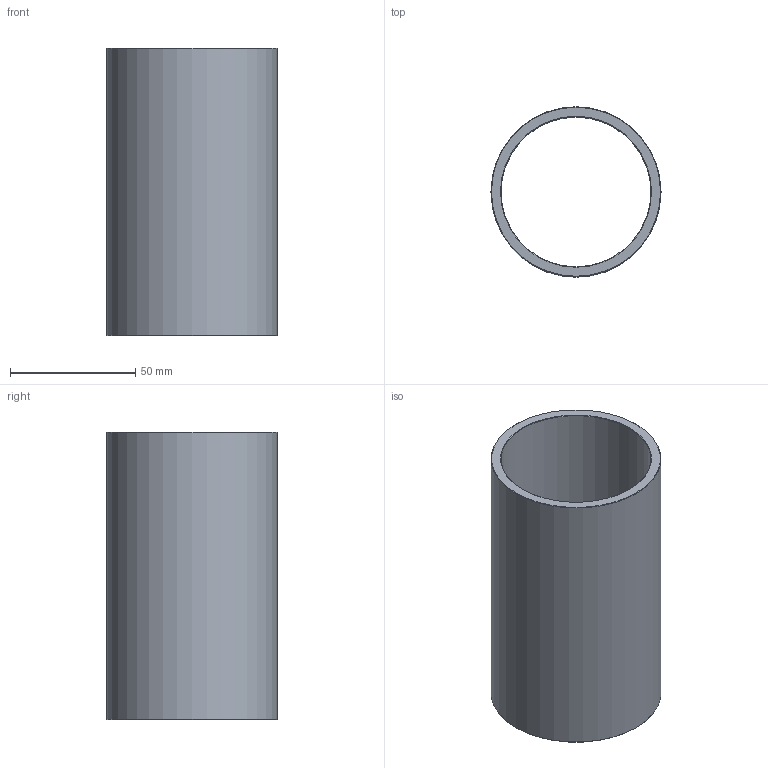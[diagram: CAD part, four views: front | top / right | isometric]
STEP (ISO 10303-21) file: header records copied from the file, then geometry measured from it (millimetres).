
FILE_DESCRIPTION(('STEP AP203'),'1');
FILE_NAME('C:/Users/Rodrigo/Desktop/GA4.060.115-1.step','2016-11-08T12:20:04',(' '),(' '),'Spatial InterOp 3D',' ',' ');
FILE_SCHEMA(('CONFIG_CONTROL_DESIGN'));
Length unit declared in the file: millimetre
Products named in the file (1): 1
Bounding box: 68 x 68 x 115 mm (x, y, z)
Volume: 92472.4 mm3; surface area: 47758.5 mm2
Topology: 1 solids, 1 shells, 8 faces, 14 edges, 8 vertices
Faces by surface type: cone 4, cylinder 2, plane 2
Full cylindrical faces by diameter (mm): 60 x1, 68 x1
Entity records: 212 total; most frequent: DIRECTION 34, CARTESIAN_POINT 25, AXIS2_PLACEMENT_3D 17, EDGE_LOOP 16, ORIENTED_EDGE 16, FACE_OUTER_BOUND 10, ADVANCED_FACE 8, EDGE_CURVE 8
